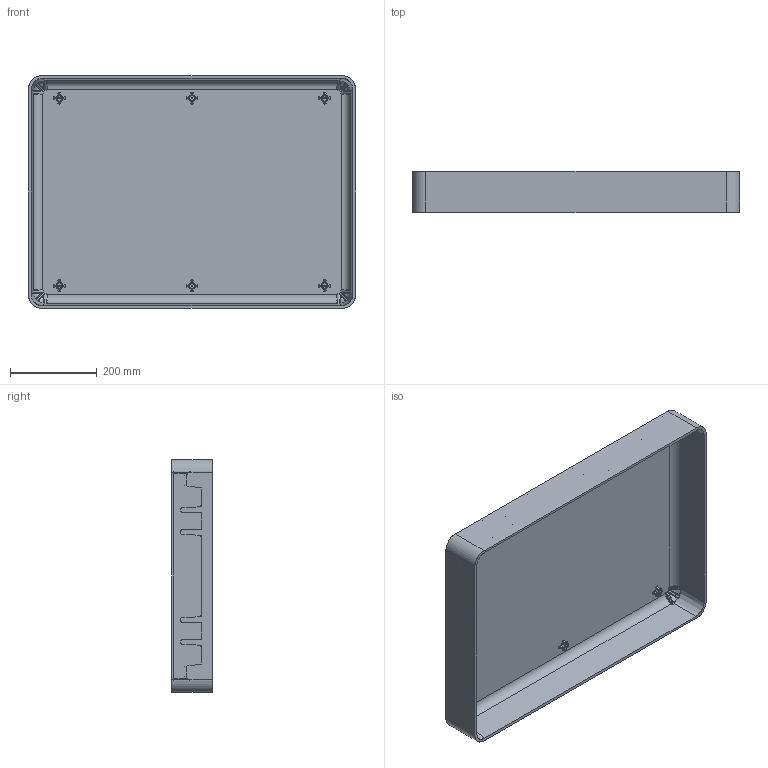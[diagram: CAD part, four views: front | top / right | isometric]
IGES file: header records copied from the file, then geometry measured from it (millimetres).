
Start section: SolidWorks IGES file using analytic representation for surfaces
Global section: file name: C:\temp\EU files dimensions 12-14-15\EU case files in pdf and DXF format\1660 Peli CaseTop.IGS; native system: SolidWorks 2014; preprocessor: SolidWorks 2014; author: mhakami; date: 160215.183116; units: inch
Bounding box: 752.12 x 93.98 x 535.41 mm (x, y, z)
Surface area: 1547839.2 mm2 (no closed solid volume)
Topology: 0 solids, 0 shells, 1418 faces, 12664 edges, 12606 vertices
Faces by surface type: bspline 1052, revolution 366
